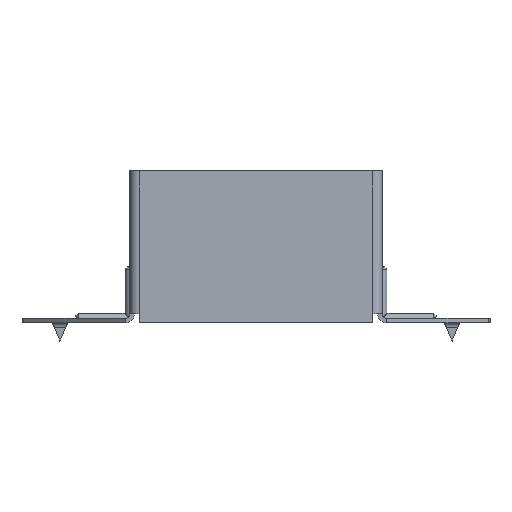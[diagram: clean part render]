
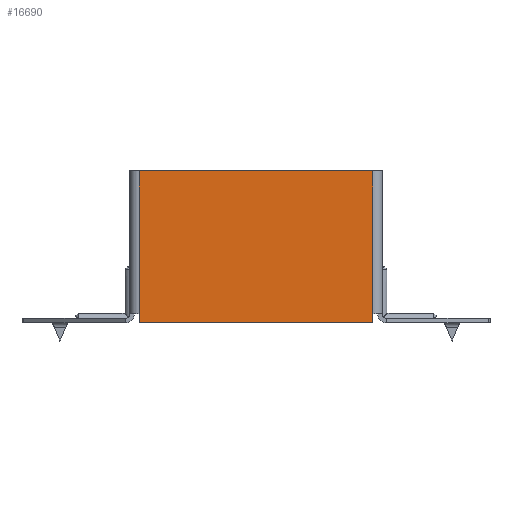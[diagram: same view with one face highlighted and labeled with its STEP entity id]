
A CAD part, front view. The second image highlights one B-rep face of the part: STEP entity #16690.
In plain terms, the highlighted planar face has unit normal (0, -1, 0).
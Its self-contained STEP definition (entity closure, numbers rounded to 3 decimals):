
#210 = VERTEX_POINT ( 'NONE', #14357 ) ;
#499 = CARTESIAN_POINT ( 'NONE',  ( 38.5, 0., -67. ) ) ;
#1051 = VERTEX_POINT ( 'NONE', #499 ) ;
#1167 = DIRECTION ( 'NONE',  ( 0., 0., 1. ) ) ;
#1168 = VECTOR ( 'NONE', #9708, 1000. ) ;
#1560 = DIRECTION ( 'NONE',  ( 0., 0., -1. ) ) ;
#2224 = EDGE_CURVE ( 'NONE', #210, #6658, #7747, .T. ) ;
#2613 = DIRECTION ( 'NONE',  ( -1., 0., 0. ) ) ;
#2634 = CARTESIAN_POINT ( 'NONE',  ( 38.5, 0., -70. ) ) ;
#3288 = ORIENTED_EDGE ( 'NONE', *, *, #17601, .T. ) ;
#3979 = CARTESIAN_POINT ( 'NONE',  ( -40., 0., -70. ) ) ;
#3999 = DIRECTION ( 'NONE',  ( 0., 0., 1. ) ) ;
#4121 = EDGE_CURVE ( 'NONE', #16734, #14653, #12457, .T. ) ;
#4185 = CARTESIAN_POINT ( 'NONE',  ( -38.5, 0., 0. ) ) ;
#4362 = CARTESIAN_POINT ( 'NONE',  ( -38.5, 0., -67. ) ) ;
#5310 = CARTESIAN_POINT ( 'NONE',  ( -38.5, 0., -20. ) ) ;
#5422 = DIRECTION ( 'NONE',  ( 0., 1., 0. ) ) ;
#5452 = ORIENTED_EDGE ( 'NONE', *, *, #4121, .F. ) ;
#5577 = DIRECTION ( 'NONE',  ( 0., 0., -1. ) ) ;
#5593 = DIRECTION ( 'NONE',  ( -1., 0., 0. ) ) ;
#5798 = CARTESIAN_POINT ( 'NONE',  ( 38.5, 0., -70. ) ) ;
#6658 = VERTEX_POINT ( 'NONE', #5310 ) ;
#6901 = ORIENTED_EDGE ( 'NONE', *, *, #2224, .T. ) ;
#7493 = EDGE_CURVE ( 'NONE', #16734, #1051, #8801, .T. ) ;
#7747 = LINE ( 'NONE', #9848, #8651 ) ;
#8341 = VECTOR ( 'NONE', #5577, 1000. ) ;
#8434 = CARTESIAN_POINT ( 'NONE',  ( 0., 0., 0. ) ) ;
#8560 = LINE ( 'NONE', #2634, #9225 ) ;
#8644 = VECTOR ( 'NONE', #2613, 1000. ) ;
#8651 = VECTOR ( 'NONE', #5593, 1000. ) ;
#8801 = LINE ( 'NONE', #11345, #1168 ) ;
#9225 = VECTOR ( 'NONE', #3999, 1000. ) ;
#9239 = VECTOR ( 'NONE', #1560, 1000. ) ;
#9306 = EDGE_CURVE ( 'NONE', #17622, #14653, #17519, .T. ) ;
#9708 = DIRECTION ( 'NONE',  ( 0., 0., 1. ) ) ;
#9848 = CARTESIAN_POINT ( 'NONE',  ( 0., 0., -20. ) ) ;
#11345 = CARTESIAN_POINT ( 'NONE',  ( 38.5, 0., -70. ) ) ;
#12073 = ORIENTED_EDGE ( 'NONE', *, *, #7493, .T. ) ;
#12145 = CARTESIAN_POINT ( 'NONE',  ( -38.5, 0., -70. ) ) ;
#12457 = LINE ( 'NONE', #3979, #8644 ) ;
#12641 = EDGE_CURVE ( 'NONE', #1051, #210, #8560, .T. ) ;
#13006 = CARTESIAN_POINT ( 'NONE',  ( -38.5, 0., 0. ) ) ;
#13923 = PLANE ( 'NONE',  #17251 ) ;
#14357 = CARTESIAN_POINT ( 'NONE',  ( 38.5, 0., -20. ) ) ;
#14653 = VERTEX_POINT ( 'NONE', #12145 ) ;
#14791 = EDGE_LOOP ( 'NONE', ( #6901, #3288, #17582, #5452, #12073, #18560 ) ) ;
#15962 = LINE ( 'NONE', #13006, #9239 ) ;
#16690 = ADVANCED_FACE ( 'NONE', ( #18003 ), #13923, .F. ) ;
#16734 = VERTEX_POINT ( 'NONE', #5798 ) ;
#17251 = AXIS2_PLACEMENT_3D ( 'NONE', #8434, #5422, #1167 ) ;
#17519 = LINE ( 'NONE', #4185, #8341 ) ;
#17582 = ORIENTED_EDGE ( 'NONE', *, *, #9306, .T. ) ;
#17601 = EDGE_CURVE ( 'NONE', #6658, #17622, #15962, .T. ) ;
#17622 = VERTEX_POINT ( 'NONE', #4362 ) ;
#18003 = FACE_OUTER_BOUND ( 'NONE', #14791, .T. ) ;
#18560 = ORIENTED_EDGE ( 'NONE', *, *, #12641, .T. ) ;
